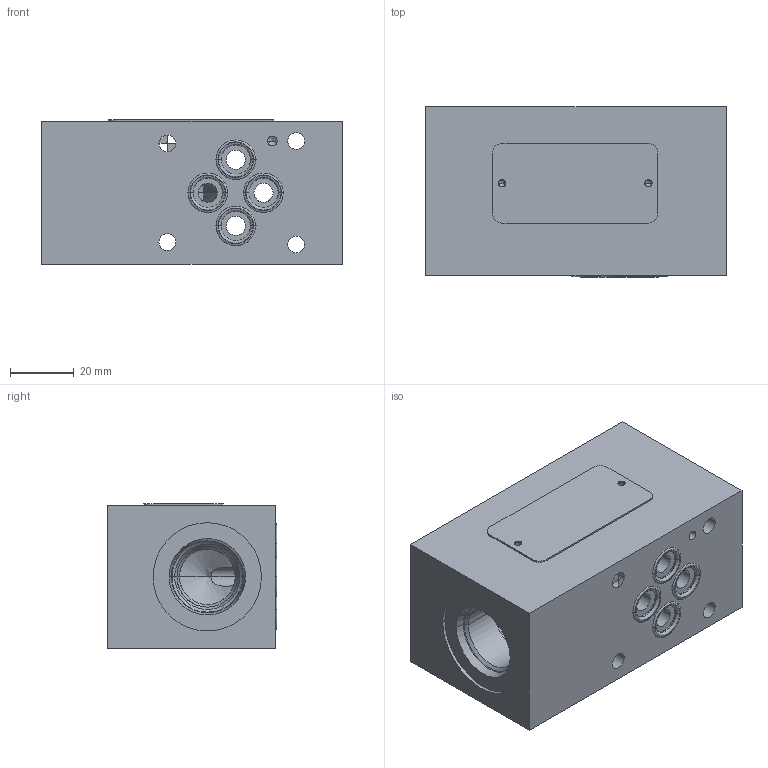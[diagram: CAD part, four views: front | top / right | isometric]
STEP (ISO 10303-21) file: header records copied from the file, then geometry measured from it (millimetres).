
FILE_DESCRIPTION((''),'2;1');
FILE_NAME('410729_ASM','2023-10-13T',('l.soukupova'),(''),'PRO/ENGINEER BY PARAMETRIC TECHNOLOGY CORPORATION, 2015440','PRO/ENGINEER BY PARAMETRIC TECHNOLOGY CORPORATION, 2015440','');
FILE_SCHEMA(('AUTOMOTIVE_DESIGN { 1 0 10303 214 1 1 1 1 }'));
Length unit declared in the file: millimetre
Products named in the file (5): 410730; 15970300; ORAR00012_201524; SK552_050; 410729_ASM
Assembly tree (7 placements, depth 2):
  410729_ASM
    410730
    15970300
    ORAR00012_201524  x4
    SK552_050
Bounding box: 94.5 x 53.38 x 45.5 mm (x, y, z)
Volume: 198073.1 mm3; surface area: 39108.2 mm2
Topology: 7 solids, 10 shells, 235 faces, 656 edges, 513 vertices
Faces by surface type: cone 85, cylinder 84, plane 34, torus 32
Entity records: 9775 total; most frequent: CARTESIAN_POINT 1676, DIRECTION 1255, ORIENTED_EDGE 854, PRESENTATION_STYLE_ASSIGNMENT 666, STYLED_ITEM 609, CURVE_STYLE 603, AXIS2_PLACEMENT_3D 488, EDGE_CURVE 433
